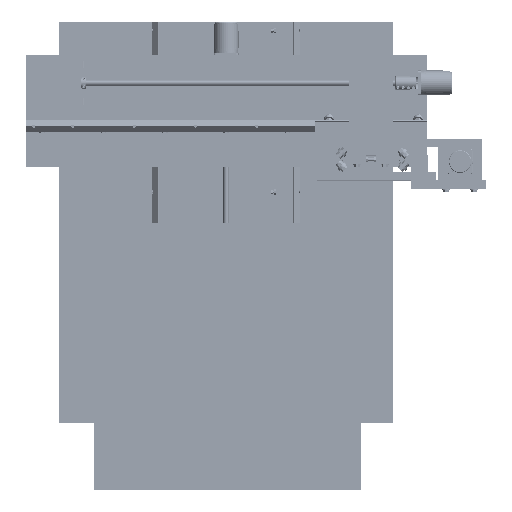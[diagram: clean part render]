
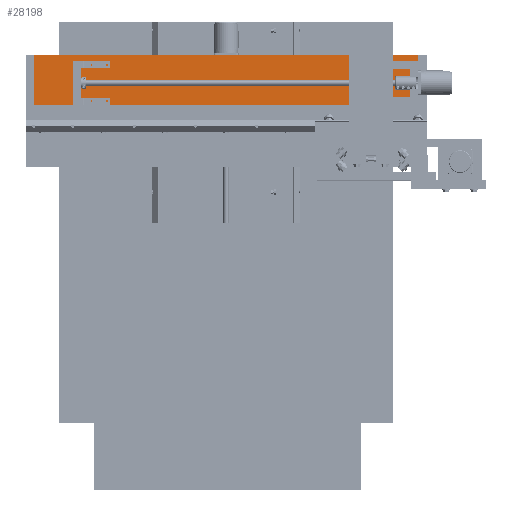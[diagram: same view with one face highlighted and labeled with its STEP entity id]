
A CAD part, top view. The second image highlights one B-rep face of the part: STEP entity #28198.
In plain terms, the highlighted planar face has unit normal (0, 0, 1).
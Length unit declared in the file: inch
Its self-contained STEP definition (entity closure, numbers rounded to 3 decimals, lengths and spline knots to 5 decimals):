
#28198=ADVANCED_FACE('',(#56792),#56793,.T.);
#56792=FACE_OUTER_BOUND('',#122442,.T.);
#56793=PLANE('',#122443);
#122442=EDGE_LOOP('',(#213267,#213268,#213269,#213270));
#122443=AXIS2_PLACEMENT_3D('',#213271,#213272,#213273);
#213267=ORIENTED_EDGE('',*,*,#277777,.T.);
#213268=ORIENTED_EDGE('',*,*,#280754,.T.);
#213269=ORIENTED_EDGE('',*,*,#280755,.T.);
#213270=ORIENTED_EDGE('',*,*,#280756,.T.);
#213271=CARTESIAN_POINT('',(19.625,4.3125,16.09821));
#213272=DIRECTION('',(0.0,0.0,1.0));
#213273=DIRECTION('',(1.0,0.0,0.0));
#277777=EDGE_CURVE('',#320467,#320469,#320471,.T.);
#280754=EDGE_CURVE('',#320469,#324841,#324842,.T.);
#280755=EDGE_CURVE('',#324841,#324843,#324844,.T.);
#280756=EDGE_CURVE('',#324843,#320467,#324845,.T.);
#320467=VERTEX_POINT('',#455289);
#320469=VERTEX_POINT('',#455292);
#320471=LINE('',#455295,#455296);
#324841=VERTEX_POINT('',#471800);
#324842=LINE('',#471801,#471802);
#324843=VERTEX_POINT('',#471803);
#324844=LINE('',#471804,#471805);
#324845=LINE('',#471806,#471807);
#455289=CARTESIAN_POINT('',(36.875,3.0,16.09821));
#455292=CARTESIAN_POINT('',(36.875,7.5,16.09821));
#455295=CARTESIAN_POINT('',(36.875,4.3125,16.09821));
#455296=VECTOR('',#549139,1.0);
#471800=CARTESIAN_POINT('',(2.375,7.5,16.09821));
#471801=CARTESIAN_POINT('',(19.625,7.5,16.09821));
#471802=VECTOR('',#552679,1.0);
#471803=CARTESIAN_POINT('',(2.375,3.0,16.09821));
#471804=CARTESIAN_POINT('',(2.375,4.3125,16.09821));
#471805=VECTOR('',#552680,1.0);
#471806=CARTESIAN_POINT('',(19.625,3.0,16.09821));
#471807=VECTOR('',#552681,1.0);
#549139=DIRECTION('',(0.0,1.0,0.0));
#552679=DIRECTION('',(-1.0,0.0,0.0));
#552680=DIRECTION('',(0.0,-1.0,0.0));
#552681=DIRECTION('',(1.0,0.0,0.0));
